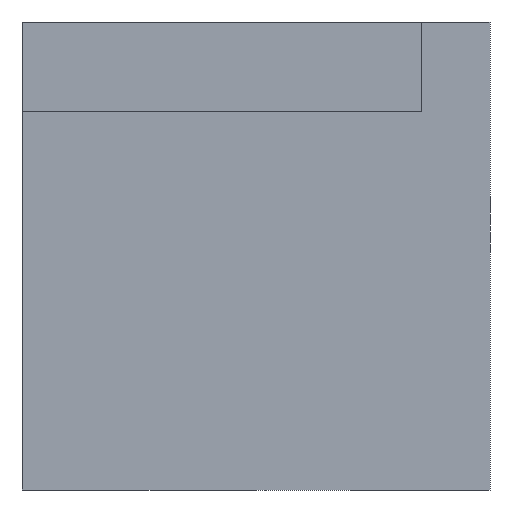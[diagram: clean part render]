
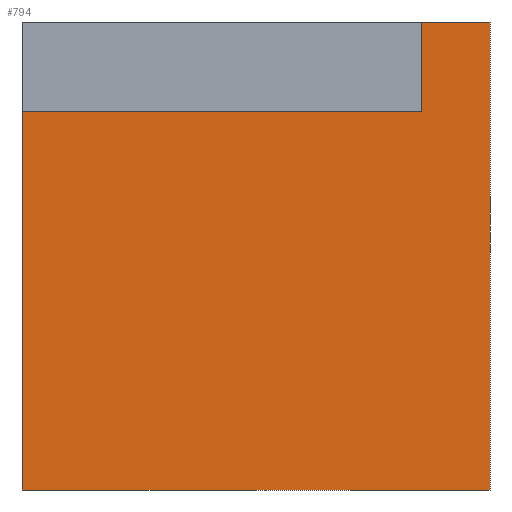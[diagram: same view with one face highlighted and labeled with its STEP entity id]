
A CAD part, left-side view. The second image highlights one B-rep face of the part: STEP entity #794.
In plain terms, the highlighted planar face has unit normal (-1, 0, 0).
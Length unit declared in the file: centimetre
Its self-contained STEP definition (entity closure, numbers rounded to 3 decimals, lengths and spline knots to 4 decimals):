
#9 = CARTESIAN_POINT ( 'NONE',  ( 0., 0., 0. ) ) ;
#15 = CARTESIAN_POINT ( 'NONE',  ( 0., 0., 1000. ) ) ;
#48 = ORIENTED_EDGE ( 'NONE', *, *, #954, .T. ) ;
#58 = CARTESIAN_POINT ( 'NONE',  ( 0., 1000., 1000. ) ) ;
#71 = LINE ( 'NONE', #149, #199 ) ;
#76 = DIRECTION ( 'NONE',  ( 0., 0., 1. ) ) ;
#83 = CARTESIAN_POINT ( 'NONE',  ( 0., 1000., 808.8112 ) ) ;
#129 = EDGE_LOOP ( 'NONE', ( #193, #48, #400, #244, #855, #574 ) ) ;
#139 = DIRECTION ( 'NONE',  ( 0., 0., -1. ) ) ;
#146 = VECTOR ( 'NONE', #770, 100. ) ;
#149 = CARTESIAN_POINT ( 'NONE',  ( 0., 0., 1000. ) ) ;
#166 = DIRECTION ( 'NONE',  ( 0., -1., 0. ) ) ;
#168 = LINE ( 'NONE', #466, #146 ) ;
#188 = CARTESIAN_POINT ( 'NONE',  ( 0., 145.3798, 1000. ) ) ;
#193 = ORIENTED_EDGE ( 'NONE', *, *, #747, .F. ) ;
#199 = VECTOR ( 'NONE', #514, 100. ) ;
#217 = VERTEX_POINT ( 'NONE', #83 ) ;
#241 = LINE ( 'NONE', #408, #849 ) ;
#242 = CARTESIAN_POINT ( 'NONE',  ( 0., 1000., 0. ) ) ;
#244 = ORIENTED_EDGE ( 'NONE', *, *, #281, .T. ) ;
#277 = VERTEX_POINT ( 'NONE', #9 ) ;
#281 = EDGE_CURVE ( 'NONE', #517, #277, #767, .T. ) ;
#286 = CARTESIAN_POINT ( 'NONE',  ( 0., 145.3798, 808.8112 ) ) ;
#317 = DIRECTION ( 'NONE',  ( 0., 1., 0. ) ) ;
#337 = VECTOR ( 'NONE', #374, 100. ) ;
#343 = EDGE_CURVE ( 'NONE', #404, #948, #515, .T. ) ;
#374 = DIRECTION ( 'NONE',  ( 0., -1., 0. ) ) ;
#385 = CARTESIAN_POINT ( 'NONE',  ( 0., 1000., 1000. ) ) ;
#400 = ORIENTED_EDGE ( 'NONE', *, *, #613, .T. ) ;
#404 = VERTEX_POINT ( 'NONE', #188 ) ;
#408 = CARTESIAN_POINT ( 'NONE',  ( 0., 145.3798, 808.8112 ) ) ;
#425 = VECTOR ( 'NONE', #166, 100. ) ;
#441 = LINE ( 'NONE', #286, #750 ) ;
#466 = CARTESIAN_POINT ( 'NONE',  ( 0., 1000., 1000. ) ) ;
#505 = FACE_OUTER_BOUND ( 'NONE', #129, .T. ) ;
#514 = DIRECTION ( 'NONE',  ( 0., 0., -1. ) ) ;
#515 = LINE ( 'NONE', #385, #337 ) ;
#517 = VERTEX_POINT ( 'NONE', #242 ) ;
#574 = ORIENTED_EDGE ( 'NONE', *, *, #343, .F. ) ;
#582 = DIRECTION ( 'NONE',  ( 1., 0., 0. ) ) ;
#613 = EDGE_CURVE ( 'NONE', #217, #517, #168, .T. ) ;
#720 = AXIS2_PLACEMENT_3D ( 'NONE', #58, #582, #139 ) ;
#747 = EDGE_CURVE ( 'NONE', #862, #404, #441, .T. ) ;
#750 = VECTOR ( 'NONE', #76, 100. ) ;
#761 = CARTESIAN_POINT ( 'NONE',  ( 0., 1000., 0. ) ) ;
#767 = LINE ( 'NONE', #761, #425 ) ;
#770 = DIRECTION ( 'NONE',  ( 0., 0., -1. ) ) ;
#794 = ADVANCED_FACE ( 'NONE', ( #505 ), #903, .F. ) ;
#795 = EDGE_CURVE ( 'NONE', #948, #277, #71, .T. ) ;
#849 = VECTOR ( 'NONE', #317, 100. ) ;
#855 = ORIENTED_EDGE ( 'NONE', *, *, #795, .F. ) ;
#862 = VERTEX_POINT ( 'NONE', #886 ) ;
#886 = CARTESIAN_POINT ( 'NONE',  ( 0., 145.3798, 808.8112 ) ) ;
#903 = PLANE ( 'NONE',  #720 ) ;
#948 = VERTEX_POINT ( 'NONE', #15 ) ;
#954 = EDGE_CURVE ( 'NONE', #862, #217, #241, .T. ) ;
